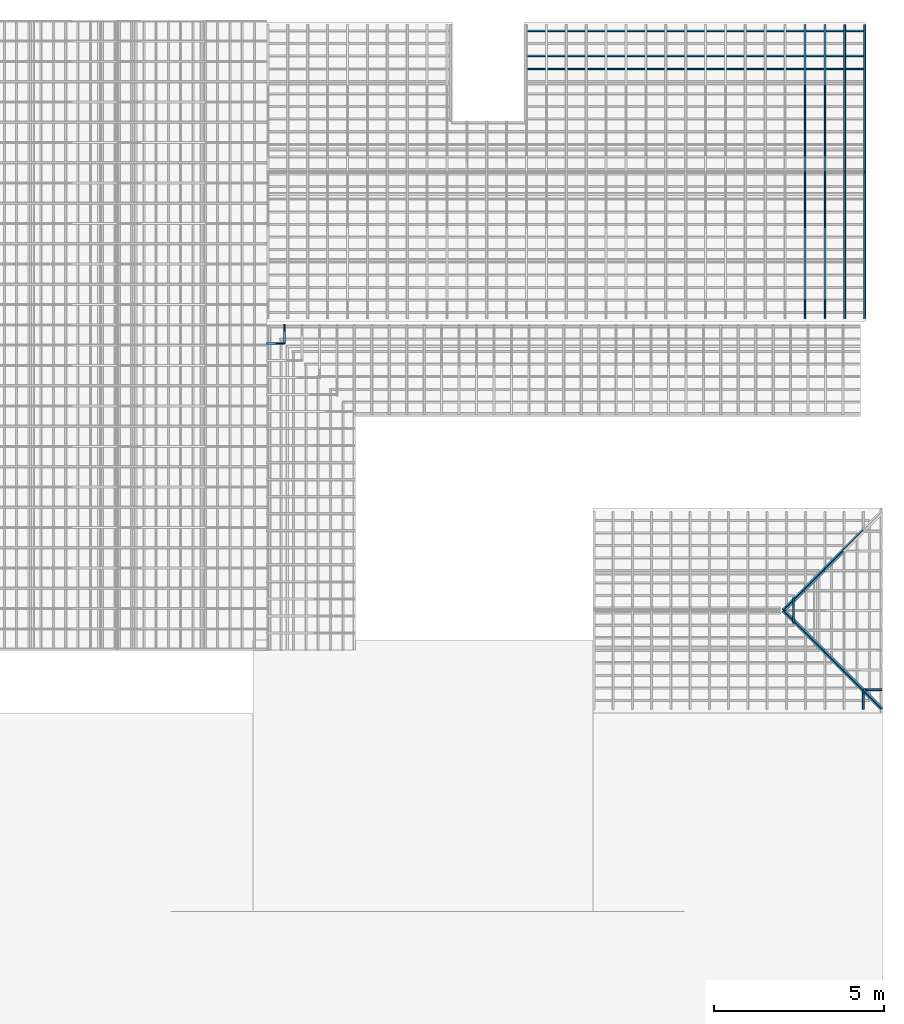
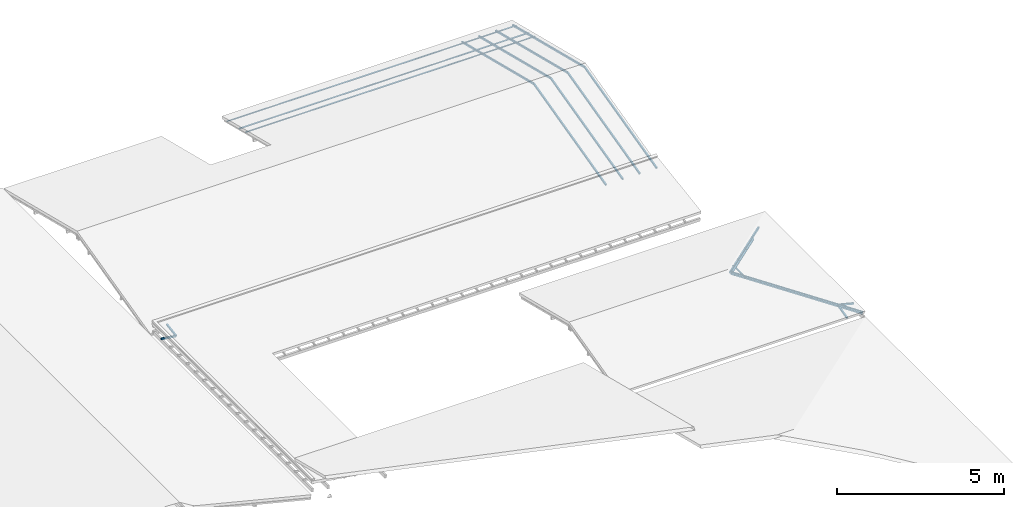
# One storey, part 8 of 10: 35 members, 5 elements without a shape of their own.
"""IFC2X3 building model written with IfcOpenShell, lengths in metres."""

from ifc_helpers import new_model, entity, si_unit, converted_unit, derived_unit, direction, frame, frame_2d, origin, origin_2d_with_axis, place, context, subcontext, project, spatial, rectangle, extrude, clip, halfspace, source, transform, mapped, material, type_object, type_shapes, element, aggregate, save


model = new_model("IFC2X3")

# Units and contexts
model_context = context("Model", 3, precision=1e-05, world=origin(), true_north=direction((6.12303176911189e-17, 1.0)))
body_context = subcontext(model_context, "Body", "Model", "MODEL_VIEW")
ifc_project = project(units=[si_unit("LENGTHUNIT", "METRE"), si_unit("AREAUNIT", "SQUARE_METRE"), si_unit("VOLUMEUNIT", "CUBIC_METRE"), converted_unit("PLANEANGLEUNIT", "DEGREE", entity("IfcRatioMeasure", 0.0174532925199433), si_unit("PLANEANGLEUNIT", "RADIAN"), dimensions=[0, 0, 0, 0, 0, 0, 0]), si_unit("MASSUNIT", "GRAM", prefix="KILO"), derived_unit("MASSDENSITYUNIT", [(si_unit("MASSUNIT", "GRAM", prefix="KILO"), 1), (si_unit("LENGTHUNIT", "METRE"), -3)]), si_unit("TIMEUNIT", "SECOND"), si_unit("FREQUENCYUNIT", "HERTZ"), si_unit("THERMODYNAMICTEMPERATUREUNIT", "DEGREE_CELSIUS"), derived_unit("THERMALTRANSMITTANCEUNIT", [(si_unit("MASSUNIT", "GRAM", prefix="KILO"), 1), (si_unit("THERMODYNAMICTEMPERATUREUNIT", "KELVIN"), -1), (si_unit("TIMEUNIT", "SECOND"), -3)]), derived_unit("VOLUMETRICFLOWRATEUNIT", [(si_unit("LENGTHUNIT", "METRE"), 3), (si_unit("TIMEUNIT", "SECOND"), -1)]), si_unit("ELECTRICCURRENTUNIT", "AMPERE"), si_unit("ELECTRICVOLTAGEUNIT", "VOLT"), si_unit("POWERUNIT", "WATT"), si_unit("FORCEUNIT", "NEWTON", prefix="KILO"), si_unit("ILLUMINANCEUNIT", "LUX"), si_unit("LUMINOUSFLUXUNIT", "LUMEN"), si_unit("LUMINOUSINTENSITYUNIT", "CANDELA"), derived_unit("USERDEFINED", [(si_unit("MASSUNIT", "GRAM", prefix="KILO"), -1), (si_unit("LENGTHUNIT", "METRE"), -2), (si_unit("TIMEUNIT", "SECOND"), 3), (si_unit("LUMINOUSFLUXUNIT", "LUMEN"), 1)]), derived_unit("LINEARVELOCITYUNIT", [(si_unit("LENGTHUNIT", "METRE"), 1), (si_unit("TIMEUNIT", "SECOND"), -1)]), si_unit("PRESSUREUNIT", "PASCAL"), derived_unit("USERDEFINED", [(si_unit("LENGTHUNIT", "METRE"), -2), (si_unit("MASSUNIT", "GRAM", prefix="KILO"), 1), (si_unit("TIMEUNIT", "SECOND"), -2)])], contexts=[model_context])

# Site, building, storey
site_placement = place(None, frame((26.9889013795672, -17.5624287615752, 0.0)))
site = spatial("IfcSite", under=ifc_project, at=site_placement, Name="Default", CompositionType="ELEMENT")
building_placement = place(site_placement, origin())
building = spatial("IfcBuilding", under=site, at=building_placement, Name="C. C. L. Monsenhor Antônio Sampaio", CompositionType="ELEMENT")
storey_placement = place(building_placement, frame((0.0, 0.0, 4.3)))
storey = spatial("IfcBuildingStorey", under=building, at=storey_placement, Name="COBERTURA BLOCO 01", CompositionType="ELEMENT", Elevation=4.3)

# Roof, members
curtain_wall_type_1 = type_object("IfcCurtainWallType", PredefinedType="NOTDEFINED")
roof_1_placement = place(storey_placement, frame((0.0, 0.0, -4.3)))
roof_1 = element("IfcRoof", 1, at=roof_1_placement, inside=storey, type_object=curtain_wall_type_1, ShapeType="NOTDEFINED")
ifc_material = material(Name=".Madeira")
member_type_1 = type_object("IfcMemberType", Name="6x5 cm", PredefinedType="MEMBER")
shared_shape_1 = source(origin(), body_context, "Body", "SweptSolid", [
    extrude(rectangle(XDim=0.06, YDim=0.05, at=origin_2d_with_axis()), frame((0.0, 0.05, -0.568644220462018), z_axis=(0.0, 0.0, 1.0), x_axis=(0.0, -1.0, 0.0)), (0.0, 0.0, 1.0), 0.568644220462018),
])
type_shapes(member_type_1, [shared_shape_1])
member_1_placement = place(storey_placement, frame((-5.32819934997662, -16.9030663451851, 0.599737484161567), z_axis=(0.0, 0.988936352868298, 0.148340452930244), x_axis=(1.0, 0.0, 0.0)))
member_1 = element("IfcMember", 2, at=member_1_placement, type_object=member_type_1, material=ifc_material, Name="Rectangular Mullion:6x5 cm", ObjectType="6x5 cm", context=body_context, shape_type="MappedRepresentation", body=[
    mapped(shared_shape_1, transform((0.0, 0.0, 0.0), scale=1.0)),
])
member_type_2 = type_object("IfcMemberType", Name="6x5 cm", PredefinedType="MEMBER")
shared_shape_2 = source(origin(), body_context, "Body", "SweptSolid", [
    extrude(rectangle(XDim=0.06, YDim=0.05, at=origin_2d_with_axis()), frame((0.0, 0.05, -0.505593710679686), z_axis=(0.0, 0.0, 1.0), x_axis=(0.0, -1.0, 0.0)), (0.0, 0.0, 1.0), 0.505593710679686),
])
type_shapes(member_type_2, [shared_shape_2])
member_2_placement = place(storey_placement, frame((-5.84055229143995, -17.4530663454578, 0.592237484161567), z_axis=(-0.988936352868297, 0.0, 0.148340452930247), x_axis=(0.0, 1.0, 0.0)))
member_2 = element("IfcMember", 3, at=member_2_placement, type_object=member_type_2, material=ifc_material, Name="Rectangular Mullion:6x5 cm", ObjectType="6x5 cm", context=body_context, shape_type="MappedRepresentation", body=[
    mapped(shared_shape_2, transform((0.0, 0.0, 0.0), scale=1.0)),
])
aggregate(roof_1, [member_1, member_2])

# Roof, member
curtain_wall_type_2 = type_object("IfcCurtainWallType", PredefinedType="NOTDEFINED")
roof_2_placement = place(storey_placement, frame((0.0, 0.0, -4.3)))
roof_2 = element("IfcRoof", 4, at=roof_2_placement, inside=storey, type_object=curtain_wall_type_2, ShapeType="NOTDEFINED")
member_type_3 = type_object("IfcMemberType", Name="Ripa", PredefinedType="MEMBER")
shared_shape_3 = source(origin(), body_context, "Body", "SweptSolid", [
    extrude(rectangle(XDim=0.015, YDim=0.05, at=frame_2d((-1.69135538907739e-17, 0.0), x_axis=(1.0, 0.0))), frame((0.025, -0.1875, -0.746436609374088), z_axis=(0.0, 0.0, 1.0), x_axis=(0.0, -1.0, 0.0)), (0.0, 0.0, 1.0), 0.746436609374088),
])
type_shapes(member_type_3, [shared_shape_3])
member_3_placement = place(storey_placement, frame((9.59266601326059, -25.666284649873, 2.15727306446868), z_axis=(0.0, -1.0, 0.0), x_axis=(-0.970142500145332, 0.0, 0.242535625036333)))
member_3 = element("IfcMember", 5, at=member_3_placement, type_object=member_type_3, material=ifc_material, Name="Rectangular Mullion:Ripa", ObjectType="Ripa", context=body_context, shape_type="MappedRepresentation", body=[
    mapped(shared_shape_3, transform((0.0, 0.0, 0.0), scale=1.0)),
])
aggregate(roof_2, [member_3])

# Roof, members
curtain_wall_type_3 = type_object("IfcCurtainWallType", PredefinedType="NOTDEFINED")
roof_3_placement = place(storey_placement, frame((0.0, 0.0, -4.3)))
roof_3 = element("IfcRoof", 6, at=roof_3_placement, inside=storey, type_object=curtain_wall_type_3, ShapeType="NOTDEFINED")
member_type_4 = type_object("IfcMemberType", Name="Caibro", PredefinedType="MEMBER")
shared_shape_4 = source(origin(), body_context, "Body", "SweptSolid", [
    extrude(rectangle(XDim=0.06, YDim=0.0499999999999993, at=frame_2d((0.0, 8.67361737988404e-18), x_axis=(1.0, 0.0))), frame((-0.0249999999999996, -0.03, -0.122752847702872), z_axis=(0.0, 0.0, 1.0), x_axis=(0.0, -1.0, 0.0)), (0.0, 0.0, 1.0), 0.122752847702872),
])
type_shapes(member_type_4, [shared_shape_4])
member_4_placement = place(storey_placement, frame((9.31944770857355, -25.293066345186, 2.37365528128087), z_axis=(-0.696310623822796, 0.696310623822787, 0.174077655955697), x_axis=(0.717740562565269, 0.675520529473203, 0.168880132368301)))
member_4 = element("IfcMember", 7, at=member_4_placement, type_object=member_type_4, material=ifc_material, Name="Rectangular Mullion:Caibro", ObjectType="Caibro", context=body_context, shape_type="MappedRepresentation", body=[
    mapped(shared_shape_4, transform((0.0, 0.0, 0.0), scale=1.0)),
])
member_type_5 = type_object("IfcMemberType", Name="Caibro", PredefinedType="MEMBER")
shared_shape_5 = source(origin(), body_context, "Body", "SweptSolid", [
    extrude(rectangle(XDim=0.06, YDim=0.0499999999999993, at=frame_2d((0.0, -8.67361737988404e-18), x_axis=(1.0, 0.0))), frame((-0.0249999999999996, -0.03, -0.811497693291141), z_axis=(0.0, 0.0, 1.0), x_axis=(0.0, -1.0, 0.0)), (0.0, 0.0, 1.0), 0.811497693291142),
])
type_shapes(member_type_5, [shared_shape_5])
member_5_placement = place(storey_placement, frame((9.40492182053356, -25.378540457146, 2.35228675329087), z_axis=(-0.696310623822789, 0.696310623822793, 0.174077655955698), x_axis=(0.717740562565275, 0.675520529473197, 0.168880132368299)))
member_5 = element("IfcMember", 8, at=member_5_placement, type_object=member_type_5, material=ifc_material, Name="Rectangular Mullion:Caibro", ObjectType="Caibro", context=body_context, shape_type="MappedRepresentation", body=[
    mapped(shared_shape_5, transform((0.0, 0.0, 0.0), scale=1.0)),
])
member_type_6 = type_object("IfcMemberType", Name="Caibro", PredefinedType="MEMBER")
shared_shape_6 = source(origin(), body_context, "Body", "SweptSolid", [
    extrude(rectangle(XDim=0.06, YDim=0.0499999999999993, at=frame_2d((0.0, -9.36750677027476e-17), x_axis=(1.0, 0.0))), frame((-0.0249999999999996, -0.03, -0.811497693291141), z_axis=(0.0, 0.0, 1.0), x_axis=(0.0, -1.0, 0.0)), (0.0, 0.0, 1.0), 0.811497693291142),
])
type_shapes(member_type_6, [shared_shape_6])
member_6_placement = place(storey_placement, frame((9.96997628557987, -25.9435949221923, 2.21102313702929), z_axis=(-0.696310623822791, 0.696310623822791, 0.174077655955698), x_axis=(0.717740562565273, 0.675520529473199, 0.1688801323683)))
member_6 = element("IfcMember", 9, at=member_6_placement, type_object=member_type_6, material=ifc_material, Name="Rectangular Mullion:Caibro", ObjectType="Caibro", context=body_context, shape_type="MappedRepresentation", body=[
    mapped(shared_shape_6, transform((0.0, 0.0, 0.0), scale=1.0)),
])
member_7_placement = place(storey_placement, frame((10.5350307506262, -26.5086493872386, 2.06975952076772), z_axis=(-0.696310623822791, 0.696310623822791, 0.174077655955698), x_axis=(0.717740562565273, 0.675520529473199, 0.1688801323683)))
member_7 = element("IfcMember", 10, at=member_7_placement, type_object=member_type_6, material=ifc_material, Name="Rectangular Mullion:Caibro", ObjectType="Caibro", context=body_context, shape_type="MappedRepresentation", body=[
    mapped(shared_shape_6, transform((0.0, 0.0, 0.0), scale=1.0)),
])
member_8_placement = place(storey_placement, frame((11.1000852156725, -23.512428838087, 1.92849590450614), z_axis=(0.69631062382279, 0.696310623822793, -0.174077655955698), x_axis=(0.717740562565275, -0.675520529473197, 0.168880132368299)))
member_8 = element("IfcMember", 11, at=member_8_placement, type_object=member_type_6, material=ifc_material, Name="Rectangular Mullion:Caibro", ObjectType="Caibro", context=body_context, shape_type="MappedRepresentation", body=[
    mapped(shared_shape_6, transform((0.0, 0.0, 0.0), scale=1.0)),
])
member_9_placement = place(storey_placement, frame((10.5350307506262, -24.0774833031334, 2.06975952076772), z_axis=(0.696310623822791, 0.696310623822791, -0.174077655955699), x_axis=(0.717740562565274, -0.675520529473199, 0.168880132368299)))
member_9 = element("IfcMember", 12, at=member_9_placement, type_object=member_type_6, material=ifc_material, Name="Rectangular Mullion:Caibro", ObjectType="Caibro", context=body_context, shape_type="MappedRepresentation", body=[
    mapped(shared_shape_6, transform((0.0, 0.0, 0.0), scale=1.0)),
])
member_type_7 = type_object("IfcMemberType", Name="Caibro", PredefinedType="MEMBER")
shared_shape_7 = source(origin(), body_context, "Body", "SweptSolid", [
    extrude(rectangle(XDim=0.06, YDim=0.0499999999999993, at=frame_2d((0.0, -5.03069808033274e-17), x_axis=(1.0, 0.0))), frame((-0.0249999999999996, -0.03, -0.811497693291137), z_axis=(0.0, 0.0, 1.0), x_axis=(0.0, -1.0, 0.0)), (0.0, 0.0, 1.0), 0.811497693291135),
])
type_shapes(member_type_7, [shared_shape_7])
member_10_placement = place(storey_placement, frame((11.1000852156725, -27.0737038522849, 1.92849590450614), z_axis=(-0.696310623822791, 0.696310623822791, 0.174077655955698), x_axis=(0.717740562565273, 0.675520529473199, 0.1688801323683)))
member_10 = element("IfcMember", 13, at=member_10_placement, type_object=member_type_7, material=ifc_material, Name="Rectangular Mullion:Caibro", ObjectType="Caibro", context=body_context, shape_type="MappedRepresentation", body=[
    mapped(shared_shape_7, transform((0.0, 0.0, 0.0), scale=1.0)),
])
member_type_8 = type_object("IfcMemberType", Name="Caibro", PredefinedType="MEMBER")
shared_shape_8 = source(origin(), body_context, "Body", "SweptSolid", [
    extrude(rectangle(XDim=0.06, YDim=0.0499999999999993, at=frame_2d((0.0, 4.33680868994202e-17), x_axis=(1.0, 0.0))), frame((-0.0249999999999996, -0.03, -0.775594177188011), z_axis=(0.0, 0.0, 1.0), x_axis=(0.0, -1.0, 0.0)), (0.0, 0.0, 1.0), 0.775594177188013),
])
type_shapes(member_type_8, [shared_shape_8])
member_11_placement = place(storey_placement, frame((11.6651396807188, -27.6387583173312, 1.78723228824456), z_axis=(-0.69631062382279, 0.696310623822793, 0.174077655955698), x_axis=(0.717740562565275, 0.675520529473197, 0.168880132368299)))
member_11 = element("IfcMember", 14, at=member_11_placement, type_object=member_type_8, material=ifc_material, Name="Rectangular Mullion:Caibro", ObjectType="Caibro", context=body_context, shape_type="MappedRepresentation", body=[
    mapped(shared_shape_8, transform((0.0, 0.0, 0.0), scale=1.0)),
])
member_type_9 = type_object("IfcMemberType", Name="Caibro", PredefinedType="MEMBER")
shared_shape_9 = source(origin(), body_context, "Body", "Clipping", [
    clip(extrude(rectangle(XDim=0.06, YDim=0.0499999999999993, at=origin_2d_with_axis()), frame((0.0, -0.03, -0.556675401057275), z_axis=(0.0, 0.0, 1.0), x_axis=(0.0, -1.0, 0.0)), (0.0, 0.0, 1.0), 0.510637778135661), halfspace(frame((-0.0358870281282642, 91.44, -0.0348155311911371), z_axis=(0.717740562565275, 0.0, 0.69631062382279), x_axis=(0.69631062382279, 0.0, -0.717740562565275)), False)),
])
type_shapes(member_type_9, [shared_shape_9])
member_12_placement = place(storey_placement, frame((11.6651396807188, -27.6387583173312, 1.78723228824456), z_axis=(0.0, 0.970142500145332, 0.242535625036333), x_axis=(1.0, 0.0, 0.0)))
member_12 = element("IfcMember", 15, at=member_12_placement, type_object=member_type_9, material=ifc_material, Name="Rectangular Mullion:Caibro", ObjectType="Caibro", context=body_context, shape_type="MappedRepresentation", body=[
    mapped(shared_shape_9, transform((0.0, 0.0, 0.0), scale=1.0)),
])
member_type_10 = type_object("IfcMemberType", Name="Caibro", PredefinedType="MEMBER")
shared_shape_10 = source(origin(), body_context, "Body", "SweptSolid", [
    extrude(rectangle(XDim=0.06, YDim=0.0499999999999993, at=frame_2d((0.0, 1.73472347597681e-17), x_axis=(1.0, 0.0))), frame((-0.0249999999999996, -0.03, -0.811497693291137), z_axis=(0.0, 0.0, 1.0), x_axis=(0.0, -1.0, 0.0)), (0.0, 0.0, 1.0), 0.811497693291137),
])
type_shapes(member_type_10, [shared_shape_10])
member_13_placement = place(storey_placement, frame((11.6651396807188, -22.9473743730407, 1.78723228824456), z_axis=(0.696310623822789, 0.696310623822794, -0.174077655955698), x_axis=(0.717740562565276, -0.675520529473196, 0.168880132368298)))
member_13 = element("IfcMember", 16, at=member_13_placement, type_object=member_type_10, material=ifc_material, Name="Rectangular Mullion:Caibro", ObjectType="Caibro", context=body_context, shape_type="MappedRepresentation", body=[
    mapped(shared_shape_10, transform((0.0, 0.0, 0.0), scale=1.0)),
])
member_type_11 = type_object("IfcMemberType", Name="Caibro", PredefinedType="MEMBER")
shared_shape_11 = source(origin(), body_context, "Body", "SweptSolid", [
    extrude(rectangle(XDim=0.06, YDim=0.0499999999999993, at=frame_2d((0.0, -3.29597460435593e-17), x_axis=(1.0, 0.0))), frame((-0.0249999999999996, -0.03, -0.811497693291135), z_axis=(0.0, 0.0, 1.0), x_axis=(0.0, -1.0, 0.0)), (0.0, 0.0, 1.0), 0.811497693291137),
])
type_shapes(member_type_11, [shared_shape_11])
member_14_placement = place(storey_placement, frame((9.96997628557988, -24.6425377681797, 2.2110231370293), z_axis=(0.696310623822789, 0.696310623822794, -0.174077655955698), x_axis=(0.717740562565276, -0.675520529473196, 0.168880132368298)))
member_14 = element("IfcMember", 17, at=member_14_placement, type_object=member_type_11, material=ifc_material, Name="Rectangular Mullion:Caibro", ObjectType="Caibro", context=body_context, shape_type="MappedRepresentation", body=[
    mapped(shared_shape_11, transform((0.0, 0.0, 0.0), scale=1.0)),
])
member_type_12 = type_object("IfcMemberType", Name="Caibro", PredefinedType="MEMBER")
shared_shape_12 = source(origin(), body_context, "Body", "SweptSolid", [
    extrude(rectangle(XDim=0.06, YDim=0.0499999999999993, at=origin_2d_with_axis()), frame((-0.0249999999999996, -0.03, -0.122752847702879), z_axis=(0.0, 0.0, 1.0), x_axis=(0.0, -1.0, 0.0)), (0.0, 0.0, 1.0), 0.122752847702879),
])
type_shapes(member_type_12, [shared_shape_12])
member_15_placement = place(storey_placement, frame((9.40492182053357, -25.207592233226, 2.35228675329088), z_axis=(0.6963106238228, 0.696310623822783, -0.174077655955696), x_axis=(0.717740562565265, -0.675520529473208, 0.168880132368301)))
member_15 = element("IfcMember", 18, at=member_15_placement, type_object=member_type_12, material=ifc_material, Name="Rectangular Mullion:Caibro", ObjectType="Caibro", context=body_context, shape_type="MappedRepresentation", body=[
    mapped(shared_shape_12, transform((0.0, 0.0, 0.0), scale=1.0)),
])
member_type_13 = type_object("IfcMemberType", Name="Caibro", PredefinedType="MEMBER")
shared_shape_13 = source(origin(), body_context, "Body", "SweptSolid", [
    extrude(rectangle(XDim=0.06, YDim=0.0499999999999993, at=frame_2d((2.08166817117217e-17, 5.03069808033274e-17), x_axis=(1.0, 0.0))), frame((-0.0249999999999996, -0.03, -0.800144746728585), z_axis=(0.0, 0.0, 1.0), x_axis=(0.0, -1.0, 0.0)), (0.0, 0.0, 1.0), 0.800144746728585),
])
type_shapes(member_type_13, [shared_shape_13])
member_16_placement = place(storey_placement, frame((12.2051941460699, -28.1788127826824, 1.65221867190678), z_axis=(0.696310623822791, -0.696310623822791, -0.174077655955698), x_axis=(-0.675520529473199, -0.717740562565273, 0.168880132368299)))
member_16 = element("IfcMember", 19, at=member_16_placement, type_object=member_type_13, material=ifc_material, Name="Rectangular Mullion:Caibro", ObjectType="Caibro", context=body_context, shape_type="MappedRepresentation", body=[
    mapped(shared_shape_13, transform((0.0, 0.0, 0.0), scale=1.0)),
])
member_type_14 = type_object("IfcMemberType", Name="Caibro", PredefinedType="MEMBER")
shared_shape_14 = source(origin(), body_context, "Body", "Clipping", [
    clip(extrude(rectangle(XDim=0.06, YDim=0.0499999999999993, at=frame_2d((2.08166817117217e-17, -4.33680868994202e-17), x_axis=(1.0, 0.0))), frame((-0.0249999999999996, -0.03, -0.836048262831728), z_axis=(0.0, 0.0, 1.0), x_axis=(0.0, -1.0, 0.0)), (0.0, 0.0, 1.0), 0.836048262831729), halfspace(frame((0.0, -0.3048, 0.0), z_axis=(-0.717740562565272, 0.0, 0.696310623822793), x_axis=(-0.696310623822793, 0.0, -0.717740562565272)), False)),
])
type_shapes(member_type_14, [shared_shape_14])
member_17_placement = place(storey_placement, frame((9.31944770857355, -25.293066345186, 2.37365528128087), z_axis=(-0.69631062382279, -0.696310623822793, 0.174077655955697), x_axis=(-0.6755205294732, 0.717740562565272, 0.1688801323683)))
member_17 = element("IfcMember", 20, at=member_17_placement, type_object=member_type_14, material=ifc_material, Name="Rectangular Mullion:Caibro", ObjectType="Caibro", context=body_context, shape_type="MappedRepresentation", body=[
    mapped(shared_shape_14, transform((0.0, 0.0, 0.0), scale=1.0)),
])
member_type_15 = type_object("IfcMemberType", Name="Caibro", PredefinedType="MEMBER")
shared_shape_15 = source(origin(), body_context, "Body", "SweptSolid", [
    extrude(rectangle(XDim=0.06, YDim=0.0499999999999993, at=frame_2d((0.0, -3.29597460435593e-17), x_axis=(1.0, 0.0))), frame((-0.0249999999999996, -0.03, -0.836048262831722), z_axis=(0.0, 0.0, 1.0), x_axis=(0.0, -1.0, 0.0)), (0.0, 0.0, 1.0), 0.836048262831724),
])
type_shapes(member_type_15, [shared_shape_15])
member_18_placement = place(storey_placement, frame((11.6480448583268, -27.6216634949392, 1.79150599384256), z_axis=(0.696310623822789, -0.696310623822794, -0.174077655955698), x_axis=(-0.675520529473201, -0.717740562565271, 0.1688801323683)))
member_18 = element("IfcMember", 21, at=member_18_placement, type_object=member_type_15, material=ifc_material, Name="Rectangular Mullion:Caibro", ObjectType="Caibro", context=body_context, shape_type="MappedRepresentation", body=[
    mapped(shared_shape_15, transform((0.0, 0.0, 0.0), scale=1.0)),
])
member_type_16 = type_object("IfcMemberType", Name="Caibro", PredefinedType="MEMBER")
shared_shape_16 = source(origin(), body_context, "Body", "SweptSolid", [
    extrude(rectangle(XDim=0.06, YDim=0.0499999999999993, at=frame_2d((-2.08166817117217e-17, 0.0), x_axis=(1.0, 0.0))), frame((-0.0249999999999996, -0.03, -0.836048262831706), z_axis=(0.0, 0.0, 1.0), x_axis=(0.0, -1.0, 0.0)), (0.0, 0.0, 1.0), 0.836048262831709),
])
type_shapes(member_type_16, [shared_shape_16])
member_19_placement = place(storey_placement, frame((11.0658955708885, -27.0395142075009, 1.93704331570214), z_axis=(0.696310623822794, -0.696310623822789, -0.174077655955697), x_axis=(-0.675520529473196, -0.717740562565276, 0.168880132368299)))
member_19 = element("IfcMember", 22, at=member_19_placement, type_object=member_type_16, material=ifc_material, Name="Rectangular Mullion:Caibro", ObjectType="Caibro", context=body_context, shape_type="MappedRepresentation", body=[
    mapped(shared_shape_16, transform((0.0, 0.0, 0.0), scale=1.0)),
])
member_20_placement = place(storey_placement, frame((10.4837462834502, -26.4573649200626, 2.08258063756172), z_axis=(0.69631062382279, -0.696310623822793, -0.174077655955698), x_axis=(-0.6755205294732, -0.717740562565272, 0.1688801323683)))
member_20 = element("IfcMember", 23, at=member_20_placement, type_object=member_type_16, material=ifc_material, Name="Rectangular Mullion:Caibro", ObjectType="Caibro", context=body_context, shape_type="MappedRepresentation", body=[
    mapped(shared_shape_16, transform((0.0, 0.0, 0.0), scale=1.0)),
])
member_21_placement = place(storey_placement, frame((9.90159699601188, -24.7109170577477, 2.22811795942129), z_axis=(-0.696310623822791, -0.696310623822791, 0.174077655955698), x_axis=(-0.675520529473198, 0.717740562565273, 0.1688801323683)))
member_21 = element("IfcMember", 24, at=member_21_placement, type_object=member_type_16, material=ifc_material, Name="Rectangular Mullion:Caibro", ObjectType="Caibro", context=body_context, shape_type="MappedRepresentation", body=[
    mapped(shared_shape_16, transform((0.0, 0.0, 0.0), scale=1.0)),
])
member_22_placement = place(storey_placement, frame((10.4837462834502, -24.1287677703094, 2.08258063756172), z_axis=(-0.696310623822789, -0.696310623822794, 0.174077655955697), x_axis=(-0.675520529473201, 0.717740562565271, 0.168880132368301)))
member_22 = element("IfcMember", 25, at=member_22_placement, type_object=member_type_16, material=ifc_material, Name="Rectangular Mullion:Caibro", ObjectType="Caibro", context=body_context, shape_type="MappedRepresentation", body=[
    mapped(shared_shape_16, transform((0.0, 0.0, 0.0), scale=1.0)),
])
member_type_17 = type_object("IfcMemberType", Name="Caibro", PredefinedType="MEMBER")
shared_shape_17 = source(origin(), body_context, "Body", "Clipping", [
    clip(extrude(rectangle(XDim=0.06, YDim=0.0499999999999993, at=frame_2d((0.0, 5.03069808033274e-17), x_axis=(1.0, 0.0))), frame((-0.0249999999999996, -0.03, -0.836048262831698), z_axis=(0.0, 0.0, 1.0), x_axis=(0.0, -1.0, 0.0)), (0.0, 0.0, 1.0), 0.836048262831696), halfspace(frame((0.0, -0.304799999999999, -0.836048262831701), z_axis=(-0.717740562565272, 0.0, -0.696310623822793), x_axis=(-0.696310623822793, 0.0, 0.717740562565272)), False)),
])
type_shapes(member_type_17, [shared_shape_17])
member_23_placement = place(storey_placement, frame((9.90159699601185, -25.8752156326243, 2.2281179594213), z_axis=(0.69631062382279, -0.696310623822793, -0.174077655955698), x_axis=(-0.6755205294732, -0.717740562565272, 0.1688801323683)))
member_23 = element("IfcMember", 26, at=member_23_placement, type_object=member_type_17, material=ifc_material, Name="Rectangular Mullion:Caibro", ObjectType="Caibro", context=body_context, shape_type="MappedRepresentation", body=[
    mapped(shared_shape_17, transform((0.0, 0.0, 0.0), scale=1.0)),
])
member_type_18 = type_object("IfcMemberType", Name="Caibro", PredefinedType="MEMBER")
shared_shape_18 = source(origin(), body_context, "Body", "Clipping", [
    clip(extrude(rectangle(XDim=0.06, YDim=0.0499999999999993, at=origin_2d_with_axis()), frame((0.0, -0.03, -0.574296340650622), z_axis=(0.0, 0.0, 1.0), x_axis=(0.0, -1.0, 0.0)), (0.0, 0.0, 1.0), 0.528258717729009), halfspace(frame((-0.521262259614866, 91.44, -0.60911187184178), z_axis=(-0.717740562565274, 0.0, 0.696310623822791), x_axis=(0.696310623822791, 0.0, 0.717740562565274)), False)),
])
type_shapes(member_type_18, [shared_shape_18])
member_24_placement = place(storey_placement, frame((11.6480448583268, -27.6216634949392, 1.79150599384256), z_axis=(-0.970142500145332, 0.0, 0.242535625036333), x_axis=(0.0, 1.0, 0.0)))
member_24 = element("IfcMember", 27, at=member_24_placement, type_object=member_type_18, material=ifc_material, Name="Rectangular Mullion:Caibro", ObjectType="Caibro", context=body_context, shape_type="MappedRepresentation", body=[
    mapped(shared_shape_18, transform((0.0, 0.0, 0.0), scale=1.0)),
])
aggregate(roof_3, [member_4, member_5, member_6, member_7, member_10, member_11, member_12, member_13, member_8, member_9, member_14, member_15, member_16, member_17, member_18, member_19, member_20, member_23, member_21, member_22, member_24])

roof_4_placement = place(storey_placement, frame((0.0, 0.0, -4.3)))
roof_4 = element("IfcRoof", 28, at=roof_4_placement, inside=storey, type_object=curtain_wall_type_2, ShapeType="NOTDEFINED")
member_type_19 = type_object("IfcMemberType", Name="Ripa", PredefinedType="MEMBER")
shared_shape_19 = source(origin(), body_context, "Body", "SweptSolid", [
    extrude(rectangle(XDim=0.015, YDim=0.05, at=frame_2d((-1.69135538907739e-17, 0.0), x_axis=(1.0, 0.0))), frame((0.025, -0.1875, -10.0), z_axis=(0.0, 0.0, 1.0), x_axis=(0.0, -1.0, 0.0)), (0.0, 0.0, 1.0), 9.99999999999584),
])
type_shapes(member_type_19, [shared_shape_19])
member_25_placement = place(storey_placement, frame((11.7294477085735, -8.29708985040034, 0.0821611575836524), z_axis=(1.0, 0.0, 0.0), x_axis=(0.0, -0.970142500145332, 0.242535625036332)))
member_25 = element("IfcMember", 29, at=member_25_placement, type_object=member_type_19, material=ifc_material, Name="Rectangular Mullion:Ripa", ObjectType="Ripa", context=body_context, shape_type="MappedRepresentation", body=[
    mapped(shared_shape_19, transform((0.0, 0.0, 0.0), scale=1.0)),
])
member_26_placement = place(storey_placement, frame((11.7294477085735, -9.03662973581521, 0.267046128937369), z_axis=(1.0, 0.0, 0.0), x_axis=(0.0, -0.970142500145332, 0.242535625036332)))
member_26 = element("IfcMember", 30, at=member_26_placement, type_object=member_type_19, material=ifc_material, Name="Rectangular Mullion:Ripa", ObjectType="Ripa", context=body_context, shape_type="MappedRepresentation", body=[
    mapped(shared_shape_19, transform((0.0, 0.0, 0.0), scale=1.0)),
])
member_27_placement = place(storey_placement, frame((11.7294477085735, -9.40639967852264, 0.359488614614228), z_axis=(1.0, 0.0, 0.0), x_axis=(0.0, -0.970142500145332, 0.242535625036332)))
member_27 = element("IfcMember", 31, at=member_27_placement, type_object=member_type_19, material=ifc_material, Name="Rectangular Mullion:Ripa", ObjectType="Ripa", context=body_context, shape_type="MappedRepresentation", body=[
    mapped(shared_shape_19, transform((0.0, 0.0, 0.0), scale=1.0)),
])
aggregate(roof_4, [member_25, member_26, member_27])

roof_5_placement = place(storey_placement, frame((0.0, 0.0, -4.3)))
roof_5 = element("IfcRoof", 32, at=roof_5_placement, inside=storey, type_object=curtain_wall_type_3, ShapeType="NOTDEFINED")
member_type_20 = type_object("IfcMemberType", Name="Caibro", PredefinedType="MEMBER")
shared_shape_20 = source(origin(), body_context, "Body", "SweptSolid", [
    extrude(rectangle(XDim=0.06, YDim=0.0499999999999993, at=origin_2d_with_axis()), frame((-0.0249999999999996, -0.03, -4.43310795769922), z_axis=(0.0, 0.0, 1.0), x_axis=(0.0, -1.0, 0.0)), (0.0, 0.0, 1.0), 4.43310795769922),
])
type_shapes(member_type_20, [shared_shape_20])
member_28_placement = place(storey_placement, frame((11.7294477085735, -8.1098199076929, 0.160968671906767), z_axis=(0.0, 0.970142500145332, -0.242535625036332), x_axis=(1.0, 0.0, 0.0)))
member_28 = element("IfcMember", 33, at=member_28_placement, type_object=member_type_20, material=ifc_material, Name="Rectangular Mullion:Caibro", ObjectType="Caibro", context=body_context, shape_type="MappedRepresentation", body=[
    mapped(shared_shape_20, transform((0.0, 0.0, 0.0), scale=1.0)),
])
member_type_21 = type_object("IfcMemberType", Name="Caibro", PredefinedType="MEMBER")
shared_shape_21 = source(origin(), body_context, "Body", "SweptSolid", [
    extrude(rectangle(XDim=0.06, YDim=0.0499999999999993, at=origin_2d_with_axis()), frame((-0.0249999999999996, -0.03, -4.43310795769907), z_axis=(0.0, 0.0, 1.0), x_axis=(0.0, -1.0, 0.0)), (0.0, 0.0, 1.0), 4.43310795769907),
])
type_shapes(member_type_21, [shared_shape_21])
member_29_placement = place(storey_placement, frame((11.7294477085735, -12.4105663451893, 1.23615528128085), z_axis=(0.0, 0.970142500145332, 0.242535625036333), x_axis=(1.0, 0.0, 0.0)))
member_29 = element("IfcMember", 34, at=member_29_placement, type_object=member_type_21, material=ifc_material, Name="Rectangular Mullion:Caibro", ObjectType="Caibro", context=body_context, shape_type="MappedRepresentation", body=[
    mapped(shared_shape_21, transform((0.0, 0.0, 0.0), scale=1.0)),
])
member_type_22 = type_object("IfcMemberType", Name="Caibro", PredefinedType="MEMBER")
shared_shape_22 = source(origin(), body_context, "Body", "Clipping", [
    clip(extrude(rectangle(XDim=0.06, YDim=0.0499999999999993, at=origin_2d_with_axis()), frame((0.0, -0.03, -4.43310795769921), z_axis=(0.0, 0.0, 1.0), x_axis=(0.0, -1.0, 0.0)), (0.0, 0.0, 1.0), 4.44810795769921), halfspace(frame((-0.3048, 0.0, 0.0), z_axis=(0.0, 0.242535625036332, 0.970142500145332), x_axis=(0.0, 0.970142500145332, -0.242535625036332)), False)),
])
type_shapes(member_type_22, [shared_shape_22])
member_30_placement = place(storey_placement, frame((9.95244770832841, -12.4105663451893, 1.23615528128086), z_axis=(0.0, 0.970142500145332, 0.242535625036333), x_axis=(1.0, 0.0, 0.0)))
member_30 = element("IfcMember", 35, at=member_30_placement, type_object=member_type_22, material=ifc_material, Name="Rectangular Mullion:Caibro", ObjectType="Caibro", context=body_context, shape_type="MappedRepresentation", body=[
    mapped(shared_shape_22, transform((0.0, 0.0, 0.0), scale=1.0)),
])
member_31_placement = place(storey_placement, frame((10.5364477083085, -12.4105663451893, 1.23615528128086), z_axis=(0.0, 0.970142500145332, 0.242535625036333), x_axis=(1.0, 0.0, 0.0)))
member_31 = element("IfcMember", 36, at=member_31_placement, type_object=member_type_22, material=ifc_material, Name="Rectangular Mullion:Caibro", ObjectType="Caibro", context=body_context, shape_type="MappedRepresentation", body=[
    mapped(shared_shape_22, transform((0.0, 0.0, 0.0), scale=1.0)),
])
member_32_placement = place(storey_placement, frame((11.1204477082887, -12.4105663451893, 1.23615528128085), z_axis=(0.0, 0.970142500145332, 0.242535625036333), x_axis=(1.0, 0.0, 0.0)))
member_32 = element("IfcMember", 37, at=member_32_placement, type_object=member_type_22, material=ifc_material, Name="Rectangular Mullion:Caibro", ObjectType="Caibro", context=body_context, shape_type="MappedRepresentation", body=[
    mapped(shared_shape_22, transform((0.0, 0.0, 0.0), scale=1.0)),
])
member_33_placement = place(storey_placement, frame((11.1204477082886, -12.4105663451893, 1.23615528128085), z_axis=(0.0, -0.970142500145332, 0.242535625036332), x_axis=(-1.0, 0.0, 0.0)))
member_33 = element("IfcMember", 38, at=member_33_placement, type_object=member_type_22, material=ifc_material, Name="Rectangular Mullion:Caibro", ObjectType="Caibro", context=body_context, shape_type="MappedRepresentation", body=[
    mapped(shared_shape_22, transform((0.0, 0.0, 0.0), scale=1.0)),
])
member_34_placement = place(storey_placement, frame((10.5364477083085, -12.4105663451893, 1.23615528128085), z_axis=(0.0, -0.970142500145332, 0.242535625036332), x_axis=(-1.0, 0.0, 0.0)))
member_34 = element("IfcMember", 39, at=member_34_placement, type_object=member_type_22, material=ifc_material, Name="Rectangular Mullion:Caibro", ObjectType="Caibro", context=body_context, shape_type="MappedRepresentation", body=[
    mapped(shared_shape_22, transform((0.0, 0.0, 0.0), scale=1.0)),
])
member_35_placement = place(storey_placement, frame((9.95244770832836, -12.4105663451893, 1.23615528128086), z_axis=(0.0, -0.970142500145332, 0.242535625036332), x_axis=(-1.0, 0.0, 0.0)))
member_35 = element("IfcMember", 40, at=member_35_placement, type_object=member_type_22, material=ifc_material, Name="Rectangular Mullion:Caibro", ObjectType="Caibro", context=body_context, shape_type="MappedRepresentation", body=[
    mapped(shared_shape_22, transform((0.0, 0.0, 0.0), scale=1.0)),
])
aggregate(roof_5, [member_29, member_30, member_31, member_32, member_28, member_33, member_34, member_35])

save(model, "model.ifc")
